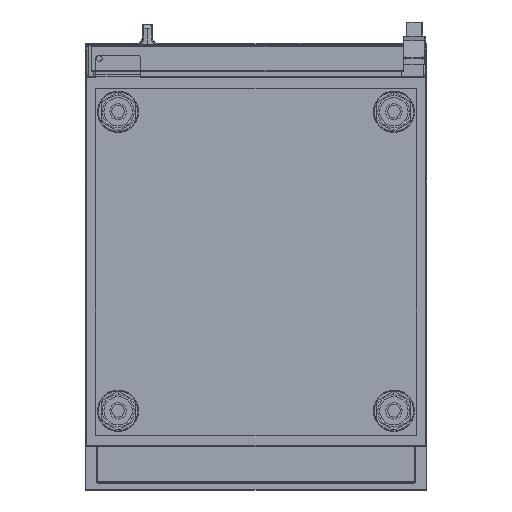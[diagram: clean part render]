
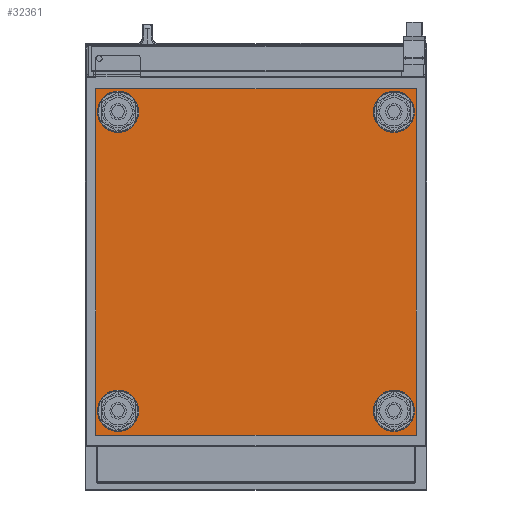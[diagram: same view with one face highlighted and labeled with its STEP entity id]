
A CAD part, front view. The second image highlights one B-rep face of the part: STEP entity #32361.
In plain terms, the highlighted planar face has unit normal (0, -1, 0).
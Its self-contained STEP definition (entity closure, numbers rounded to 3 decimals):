
#28770=DIRECTION('',(0.,0.,1.));
#28771=VECTOR('',#28770,507.);
#28772=CARTESIAN_POINT('',(-235.,-350.5,-523.5));
#28773=LINE('',#28772,#28771);
#28774=DIRECTION('',(1.,0.,0.));
#28775=VECTOR('',#28774,470.);
#28776=CARTESIAN_POINT('',(-235.,-350.5,-16.5));
#28777=LINE('',#28776,#28775);
#28778=DIRECTION('',(0.,0.,-1.));
#28779=VECTOR('',#28778,507.);
#28780=CARTESIAN_POINT('',(235.,-350.5,-16.5));
#28781=LINE('',#28780,#28779);
#28782=DIRECTION('',(-1.,0.,0.));
#28783=VECTOR('',#28782,470.);
#28784=CARTESIAN_POINT('',(235.,-350.5,-523.5));
#28785=LINE('',#28784,#28783);
#28786=CARTESIAN_POINT('',(-202.,-350.5,-490.));
#28787=DIRECTION('',(0.,1.,0.));
#28788=DIRECTION('',(1.,0.,0.));
#28789=AXIS2_PLACEMENT_3D('',#28786,#28787,#28788);
#28791=CARTESIAN_POINT('',(-202.,-350.5,-490.));
#28792=DIRECTION('',(0.,1.,0.));
#28793=DIRECTION('',(-1.,0.,0.));
#28794=AXIS2_PLACEMENT_3D('',#28791,#28792,#28793);
#28796=CARTESIAN_POINT('',(-202.,-350.5,-52.));
#28797=DIRECTION('',(0.,1.,0.));
#28798=DIRECTION('',(1.,0.,0.));
#28799=AXIS2_PLACEMENT_3D('',#28796,#28797,#28798);
#28801=CARTESIAN_POINT('',(-202.,-350.5,-52.));
#28802=DIRECTION('',(0.,1.,0.));
#28803=DIRECTION('',(-1.,0.,0.));
#28804=AXIS2_PLACEMENT_3D('',#28801,#28802,#28803);
#28806=CARTESIAN_POINT('',(202.,-350.5,-490.));
#28807=DIRECTION('',(0.,1.,0.));
#28808=DIRECTION('',(1.,0.,0.));
#28809=AXIS2_PLACEMENT_3D('',#28806,#28807,#28808);
#28811=CARTESIAN_POINT('',(202.,-350.5,-490.));
#28812=DIRECTION('',(0.,1.,0.));
#28813=DIRECTION('',(-1.,0.,0.));
#28814=AXIS2_PLACEMENT_3D('',#28811,#28812,#28813);
#28816=CARTESIAN_POINT('',(202.,-350.5,-52.));
#28817=DIRECTION('',(0.,1.,0.));
#28818=DIRECTION('',(1.,0.,0.));
#28819=AXIS2_PLACEMENT_3D('',#28816,#28817,#28818);
#28821=CARTESIAN_POINT('',(202.,-350.5,-52.));
#28822=DIRECTION('',(0.,1.,0.));
#28823=DIRECTION('',(-1.,0.,0.));
#28824=AXIS2_PLACEMENT_3D('',#28821,#28822,#28823);
#29709=CARTESIAN_POINT('',(-235.,-350.5,-523.5));
#29710=CARTESIAN_POINT('',(-235.,-350.5,-16.5));
#29711=VERTEX_POINT('',#29709);
#29712=VERTEX_POINT('',#29710);
#29713=CARTESIAN_POINT('',(235.,-350.5,-16.5));
#29714=VERTEX_POINT('',#29713);
#29715=CARTESIAN_POINT('',(235.,-350.5,-523.5));
#29716=VERTEX_POINT('',#29715);
#29741=CARTESIAN_POINT('',(-172.,-350.5,-490.));
#29742=CARTESIAN_POINT('',(-232.,-350.5,-490.));
#29743=VERTEX_POINT('',#29741);
#29744=VERTEX_POINT('',#29742);
#29745=CARTESIAN_POINT('',(-172.,-350.5,-52.));
#29746=CARTESIAN_POINT('',(-232.,-350.5,-52.));
#29747=VERTEX_POINT('',#29745);
#29748=VERTEX_POINT('',#29746);
#29749=CARTESIAN_POINT('',(232.,-350.5,-490.));
#29750=CARTESIAN_POINT('',(172.,-350.5,-490.));
#29751=VERTEX_POINT('',#29749);
#29752=VERTEX_POINT('',#29750);
#29753=CARTESIAN_POINT('',(232.,-350.5,-52.));
#29754=CARTESIAN_POINT('',(172.,-350.5,-52.));
#29755=VERTEX_POINT('',#29753);
#29756=VERTEX_POINT('',#29754);
#32326=CARTESIAN_POINT('',(0.,-350.5,0.));
#32327=DIRECTION('',(0.,1.,0.));
#32328=DIRECTION('',(1.,0.,0.));
#32329=AXIS2_PLACEMENT_3D('',#32326,#32327,#32328);
#32330=PLANE('',#32329);
#32331=ORIENTED_EDGE('',*,*,#32278,.T.);
#32332=ORIENTED_EDGE('',*,*,#32293,.T.);
#32333=ORIENTED_EDGE('',*,*,#32307,.T.);
#32334=ORIENTED_EDGE('',*,*,#32320,.T.);
#32335=EDGE_LOOP('',(#32331,#32332,#32333,#32334));
#32336=FACE_OUTER_BOUND('',#32335,.F.);
#32338=ORIENTED_EDGE('',*,*,#32337,.F.);
#32340=ORIENTED_EDGE('',*,*,#32339,.F.);
#32341=EDGE_LOOP('',(#32338,#32340));
#32342=FACE_BOUND('',#32341,.F.);
#32344=ORIENTED_EDGE('',*,*,#32343,.F.);
#32346=ORIENTED_EDGE('',*,*,#32345,.F.);
#32347=EDGE_LOOP('',(#32344,#32346));
#32348=FACE_BOUND('',#32347,.F.);
#32350=ORIENTED_EDGE('',*,*,#32349,.F.);
#32352=ORIENTED_EDGE('',*,*,#32351,.F.);
#32353=EDGE_LOOP('',(#32350,#32352));
#32354=FACE_BOUND('',#32353,.F.);
#32356=ORIENTED_EDGE('',*,*,#32355,.F.);
#32358=ORIENTED_EDGE('',*,*,#32357,.F.);
#32359=EDGE_LOOP('',(#32356,#32358));
#32360=FACE_BOUND('',#32359,.F.);
#28790=CIRCLE('',#28789,30.);
#28795=CIRCLE('',#28794,30.);
#28800=CIRCLE('',#28799,30.);
#28805=CIRCLE('',#28804,30.);
#28810=CIRCLE('',#28809,30.);
#28815=CIRCLE('',#28814,30.);
#28820=CIRCLE('',#28819,30.);
#28825=CIRCLE('',#28824,30.);
#32278=EDGE_CURVE('',#29711,#29712,#28773,.T.);
#32293=EDGE_CURVE('',#29712,#29714,#28777,.T.);
#32307=EDGE_CURVE('',#29714,#29716,#28781,.T.);
#32320=EDGE_CURVE('',#29716,#29711,#28785,.T.);
#32337=EDGE_CURVE('',#29743,#29744,#28790,.T.);
#32339=EDGE_CURVE('',#29744,#29743,#28795,.T.);
#32343=EDGE_CURVE('',#29747,#29748,#28800,.T.);
#32345=EDGE_CURVE('',#29748,#29747,#28805,.T.);
#32349=EDGE_CURVE('',#29751,#29752,#28810,.T.);
#32351=EDGE_CURVE('',#29752,#29751,#28815,.T.);
#32355=EDGE_CURVE('',#29755,#29756,#28820,.T.);
#32357=EDGE_CURVE('',#29756,#29755,#28825,.T.);
#32361=ADVANCED_FACE('',(#32336,#32342,#32348,#32354,#32360),#32330,.F.);
